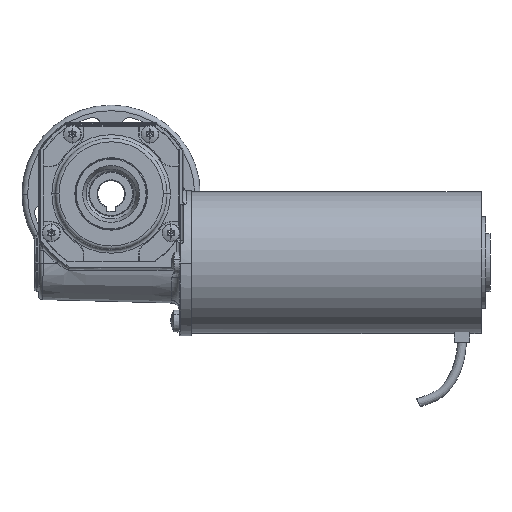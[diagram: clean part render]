
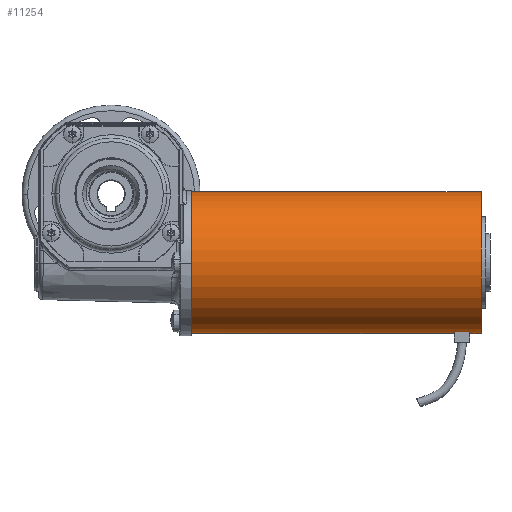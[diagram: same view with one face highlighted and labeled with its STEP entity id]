
A CAD part, top view. The second image highlights one B-rep face of the part: STEP entity #11254.
In plain terms, the highlighted cylindrical face has radius 31.847 mm (diameter 63.694 mm), a partial arc.
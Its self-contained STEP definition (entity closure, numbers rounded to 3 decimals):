
#11254=ADVANCED_FACE('',(#18070),#18071,.T.);
#18070=FACE_OUTER_BOUND('',#27994,.T.);
#18071=CYLINDRICAL_SURFACE('',#27995,31.847);
#27994=EDGE_LOOP('',(#35253,#35254,#35255,#35256,#35257,#35258,#35259,#35260));
#27995=AXIS2_PLACEMENT_3D('',#35261,#35262,#35263);
#35253=ORIENTED_EDGE('',*,*,#43562,.T.);
#35254=ORIENTED_EDGE('',*,*,#41398,.T.);
#35255=ORIENTED_EDGE('',*,*,#43563,.T.);
#35256=ORIENTED_EDGE('',*,*,#42377,.F.);
#35257=ORIENTED_EDGE('',*,*,#42144,.F.);
#35258=ORIENTED_EDGE('',*,*,#43564,.F.);
#35259=ORIENTED_EDGE('',*,*,#43565,.T.);
#35260=ORIENTED_EDGE('',*,*,#43566,.T.);
#35261=CARTESIAN_POINT('',(201.06,-38.23,56.79));
#35262=DIRECTION('',(1.0,0.,0.));
#35263=DIRECTION('',(0.,1.0,0.));
#41398=EDGE_CURVE('',#47822,#47821,#47824,.T.);
#42144=EDGE_CURVE('',#49092,#49093,#49094,.T.);
#42377=EDGE_CURVE('',#49093,#49494,#49495,.T.);
#43562=EDGE_CURVE('',#51521,#47822,#51522,.T.);
#43563=EDGE_CURVE('',#47821,#49494,#51523,.T.);
#43564=EDGE_CURVE('',#51524,#49092,#51525,.T.);
#43565=EDGE_CURVE('',#51524,#51526,#51527,.T.);
#43566=EDGE_CURVE('',#51526,#51521,#51528,.T.);
#47821=VERTEX_POINT('',#58812);
#47822=VERTEX_POINT('',#58813);
#47824=CIRCLE('',#58815,31.847);
#49092=VERTEX_POINT('',#60841);
#49093=VERTEX_POINT('',#60842);
#49094=LINE('',#60843,#60844);
#49494=VERTEX_POINT('',#61588);
#49495=CIRCLE('',#61589,31.847);
#51521=VERTEX_POINT('',#65088);
#51522=LINE('',#65089,#65090);
#51523=LINE('',#65091,#65092);
#51524=VERTEX_POINT('',#65093);
#51525=CIRCLE('',#65094,31.847);
#51526=VERTEX_POINT('',#65095);
#51527=LINE('',#65096,#65097);
#51528=CIRCLE('',#65098,31.847);
#58812=CARTESIAN_POINT('',(71.06,-70.077,56.79));
#58813=CARTESIAN_POINT('',(71.06,-6.383,56.79));
#58815=AXIS2_PLACEMENT_3D('',#77586,#77587,#77588);
#60841=CARTESIAN_POINT('',(196.06,-69.298,63.79));
#60842=CARTESIAN_POINT('',(189.06,-69.298,63.79));
#60843=CARTESIAN_POINT('',(192.56,-69.298,63.79));
#60844=VECTOR('',#78468,1.0);
#61588=CARTESIAN_POINT('',(189.06,-70.077,56.79));
#61589=AXIS2_PLACEMENT_3D('',#78743,#78744,#78745);
#65088=CARTESIAN_POINT('',(201.06,-6.383,56.79));
#65089=CARTESIAN_POINT('',(201.06,-6.383,56.79));
#65090=VECTOR('',#80254,1.0);
#65091=CARTESIAN_POINT('',(201.06,-70.077,56.79));
#65092=VECTOR('',#80255,1.0);
#65093=CARTESIAN_POINT('',(196.06,-70.077,56.79));
#65094=AXIS2_PLACEMENT_3D('',#80256,#80257,#80258);
#65095=CARTESIAN_POINT('',(201.06,-70.077,56.79));
#65096=CARTESIAN_POINT('',(201.06,-70.077,56.79));
#65097=VECTOR('',#80259,1.0);
#65098=AXIS2_PLACEMENT_3D('',#80260,#80261,#80262);
#77586=CARTESIAN_POINT('',(71.06,-38.23,56.79));
#77587=DIRECTION('',(1.0,0.,0.));
#77588=DIRECTION('',(0.,1.0,0.));
#78468=DIRECTION('',(-1.0,0.,0.));
#78743=CARTESIAN_POINT('',(189.06,-38.23,56.79));
#78744=DIRECTION('',(1.0,0.,0.));
#78745=DIRECTION('',(0.,1.0,0.));
#80254=DIRECTION('',(-1.0,0.,0.));
#80255=DIRECTION('',(1.0,0.,0.));
#80256=CARTESIAN_POINT('',(196.06,-38.23,56.79));
#80257=DIRECTION('',(-1.0,0.,0.));
#80258=DIRECTION('',(0.,1.0,0.));
#80259=DIRECTION('',(1.0,0.,0.));
#80260=CARTESIAN_POINT('',(201.06,-38.23,56.79));
#80261=DIRECTION('',(-1.0,0.,0.));
#80262=DIRECTION('',(0.,1.0,0.));
